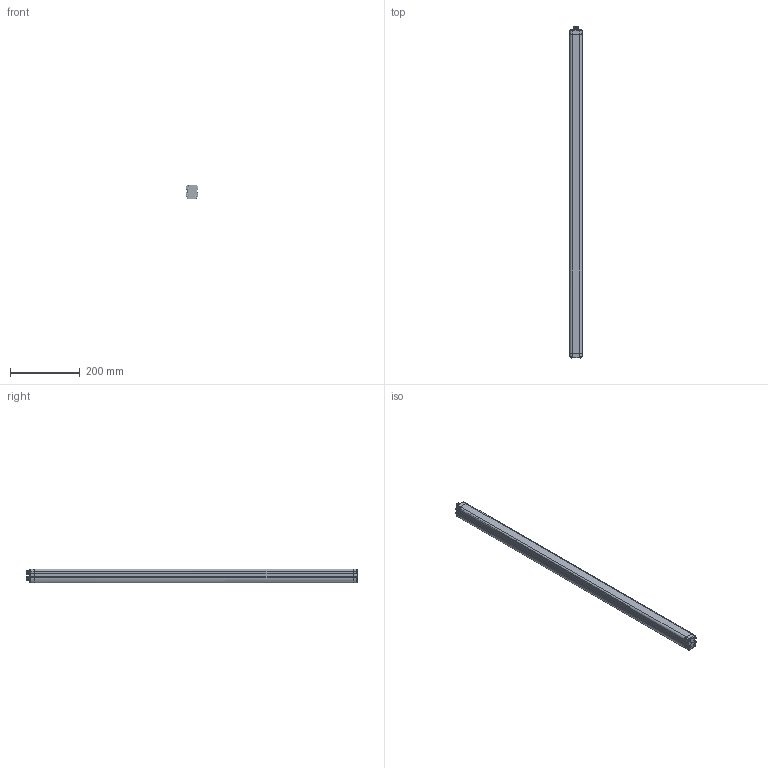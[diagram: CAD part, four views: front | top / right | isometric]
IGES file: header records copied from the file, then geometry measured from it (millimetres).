
Start section:  PTC IGES file: 2009978
Global section: file name: 2009978; native system: Pro/ENGINEER by Parametric Technology Corporation; preprocessor: 2011040; author: rink; organization: Unknown; date: 20120130.131509; units: millimetre
Bounding box: 35 x 952.58 x 40 mm (x, y, z)
Surface area: 198976.6 mm2 (no closed solid volume)
Topology: 0 solids, 0 shells, 2508 faces, 13230 edges, 13056 vertices
Faces by surface type: revolution 1142, bspline 840, extrusion 526
